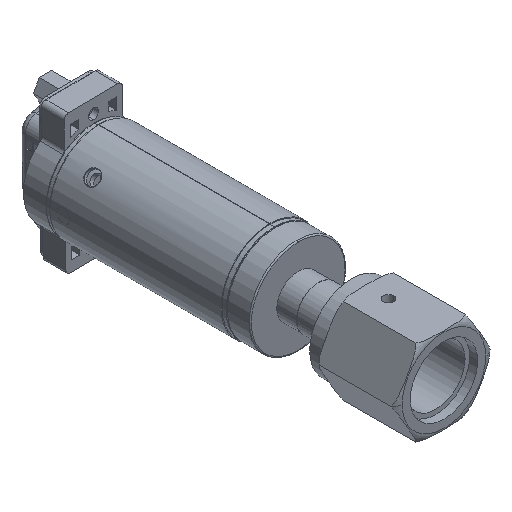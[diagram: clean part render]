
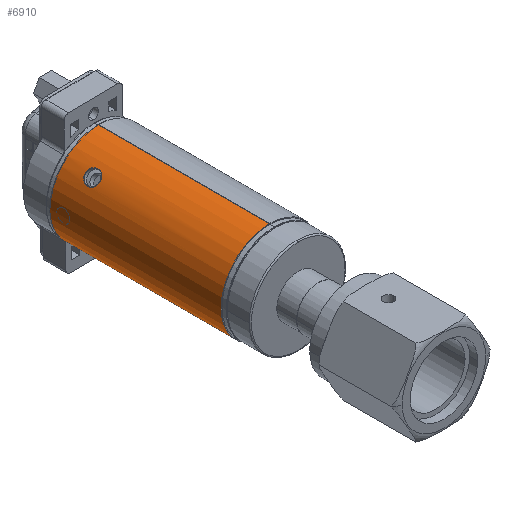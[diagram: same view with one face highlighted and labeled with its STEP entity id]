
A CAD part, isometric view. The second image highlights one B-rep face of the part: STEP entity #6910.
In plain terms, the highlighted cylindrical face has radius 10.846 mm (diameter 21.692 mm), a partial arc.
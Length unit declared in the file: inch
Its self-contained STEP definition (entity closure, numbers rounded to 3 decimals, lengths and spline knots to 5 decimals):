
#1627 = LINE ( 'NONE', #16899, #29798 ) ;
#2336 = CARTESIAN_POINT ( 'NONE',  ( 0.25449, 0.34288, 0.28908 ) ) ;
#2344 = ORIENTED_EDGE ( 'NONE', *, *, #24180, .T. ) ;
#2362 = CARTESIAN_POINT ( 'NONE',  ( 0.33519, 0.26459, 0.24653 ) ) ;
#2524 = CARTESIAN_POINT ( 'NONE',  ( 0.27896, 0.3233, 0.23078 ) ) ;
#2679 = CARTESIAN_POINT ( 'NONE',  ( 0.32972, 0.27133, 0.2379 ) ) ;
#3178 = DIRECTION ( 'NONE',  ( -1., 0., 0. ) ) ;
#3249 = DIRECTION ( 'NONE',  ( -1., 0., 0. ) ) ;
#4638 = CARTESIAN_POINT ( 'NONE',  ( 0.31584, 0.28738, 0.22569 ) ) ;
#4889 = VERTEX_POINT ( 'NONE', #10452 ) ;
#4925 = CARTESIAN_POINT ( 'NONE',  ( 0.26679, 0.33341, 0.32628 ) ) ;
#5103 = CARTESIAN_POINT ( 'NONE',  ( 0.32325, 0.27902, 0.23074 ) ) ;
#5240 = CARTESIAN_POINT ( 'NONE',  ( 0.25449, 0.34288, 0.285 ) ) ;
#5403 = CARTESIAN_POINT ( 'NONE',  ( 0.34094, 0.25708, 0.30517 ) ) ;
#5684 = DIRECTION ( 'NONE',  ( 0., 0., -1. ) ) ;
#5717 = DIRECTION ( 'NONE',  ( -1., 0., 0. ) ) ;
#5963 = VERTEX_POINT ( 'NONE', #13227 ) ;
#6224 = ORIENTED_EDGE ( 'NONE', *, *, #28248, .F. ) ;
#6910 = ADVANCED_FACE ( 'NONE', ( #20413, #30308 ), #8054, .T. ) ;
#7363 = CARTESIAN_POINT ( 'NONE',  ( 0.27361, 0.32787, 0.33502 ) ) ;
#7395 = CARTESIAN_POINT ( 'NONE',  ( 0.27129, 0.32976, 0.23795 ) ) ;
#7501 = AXIS2_PLACEMENT_3D ( 'NONE', #17973, #10023, #3178 ) ;
#7557 = CARTESIAN_POINT ( 'NONE',  ( 0.28167, 0.32094, 0.22886 ) ) ;
#7685 = CARTESIAN_POINT ( 'NONE',  ( 0.34288, 0.25449, 0.285 ) ) ;
#7713 = CARTESIAN_POINT ( 'NONE',  ( 0.34288, 0.25449, 0.27673 ) ) ;
#7789 = CARTESIAN_POINT ( 'NONE',  ( 0.427, 0., 0.0375 ) ) ;
#8054 = CYLINDRICAL_SURFACE ( 'NONE', #7501, 0.427 ) ;
#9655 = CARTESIAN_POINT ( 'NONE',  ( 0.33902, 0.2596, 0.31274 ) ) ;
#9766 = VERTEX_POINT ( 'NONE', #12727 ) ;
#9808 = CARTESIAN_POINT ( 'NONE',  ( 0.34263, 0.25482, 0.2932 ) ) ;
#9836 = CARTESIAN_POINT ( 'NONE',  ( 0.29015, 0.31337, 0.22414 ) ) ;
#10023 = DIRECTION ( 'NONE',  ( 0., 0., -1. ) ) ;
#10107 = LINE ( 'NONE', #20492, #26931 ) ;
#10257 = DIRECTION ( 'NONE',  ( 0., 0., -1. ) ) ;
#10289 = CARTESIAN_POINT ( 'NONE',  ( 0.2789, 0.32343, 0.33961 ) ) ;
#10452 = CARTESIAN_POINT ( 'NONE',  ( 0.427, 0., 1.5375 ) ) ;
#11314 = AXIS2_PLACEMENT_3D ( 'NONE', #20811, #5684, #3249 ) ;
#11343 = CIRCLE ( 'NONE', #14970, 0.427 ) ;
#12115 = CARTESIAN_POINT ( 'NONE',  ( 0.29606, 0.30781, 0.22251 ) ) ;
#12563 = CARTESIAN_POINT ( 'NONE',  ( 0.31337, 0.29015, 0.34585 ) ) ;
#12593 = CARTESIAN_POINT ( 'NONE',  ( 0.25449, 0.34288, 0.27684 ) ) ;
#12727 = CARTESIAN_POINT ( 'NONE',  ( -0.427, 0., 0.0375 ) ) ;
#12885 = CARTESIAN_POINT ( 'NONE',  ( 0.26116, 0.33783, 0.31637 ) ) ;
#13227 = CARTESIAN_POINT ( 'NONE',  ( -0.427, 0., 1.5375 ) ) ;
#13816 = VERTEX_POINT ( 'NONE', #7789 ) ;
#14558 = CARTESIAN_POINT ( 'NONE',  ( 0.33806, 0.26087, 0.25349 ) ) ;
#14641 = B_SPLINE_CURVE_WITH_KNOTS ( 'NONE', 3,
 ( #27378, #12593, #14717, #29334, #24955, #7395, #17635, #2524, #7557, #9836, #12115, #32087, #20068, #24638, #4638, #17479, #5103, #29962, #2679, #2362, #14558, #17317, #7713, #22195 ),
 .UNSPECIFIED., .F., .F.,
 ( 4, 2, 2, 2, 2, 2, 2, 2, 2, 2, 2, 4 ),
 ( 0.00497, 0.00559, 0.00621, 0.00652, 0.00683, 0.00745, 0.00776, 0.00808, 0.00839, 0.0087, 0.00932, 0.00994 ),
 .UNSPECIFIED. ) ;
#14717 = CARTESIAN_POINT ( 'NONE',  ( 0.25583, 0.34189, 0.26861 ) ) ;
#14794 = VERTEX_POINT ( 'NONE', #18230 ) ;
#14849 = CARTESIAN_POINT ( 'NONE',  ( 0.33785, 0.26114, 0.31632 ) ) ;
#14932 = EDGE_LOOP ( 'NONE', ( #23723, #2344, #6224, #30878 ) ) ;
#14970 = AXIS2_PLACEMENT_3D ( 'NONE', #27992, #18558, #5717 ) ;
#15170 = CARTESIAN_POINT ( 'NONE',  ( 0.32791, 0.27357, 0.33496 ) ) ;
#15864 = EDGE_CURVE ( 'NONE', #5963, #9766, #10107, .T. ) ;
#16899 = CARTESIAN_POINT ( 'NONE',  ( 0.427, 0., 0. ) ) ;
#17289 = CARTESIAN_POINT ( 'NONE',  ( 0.34167, 0.25611, 0.3012 ) ) ;
#17317 = CARTESIAN_POINT ( 'NONE',  ( 0.34188, 0.25585, 0.26852 ) ) ;
#17479 = CARTESIAN_POINT ( 'NONE',  ( 0.32089, 0.28173, 0.22882 ) ) ;
#17610 = CARTESIAN_POINT ( 'NONE',  ( 0.25959, 0.33903, 0.31271 ) ) ;
#17635 = CARTESIAN_POINT ( 'NONE',  ( 0.27377, 0.3277, 0.23531 ) ) ;
#17764 = CARTESIAN_POINT ( 'NONE',  ( 0.29906, 0.30481, 0.3475 ) ) ;
#17973 = CARTESIAN_POINT ( 'NONE',  ( 0., 0., 0. ) ) ;
#18230 = CARTESIAN_POINT ( 'NONE',  ( 0.34288, 0.25449, 0.285 ) ) ;
#18558 = DIRECTION ( 'NONE',  ( 0., 0., -1. ) ) ;
#19721 = CARTESIAN_POINT ( 'NONE',  ( 0.33503, 0.26474, 0.32311 ) ) ;
#19973 = ORIENTED_EDGE ( 'NONE', *, *, #21043, .T. ) ;
#20068 = CARTESIAN_POINT ( 'NONE',  ( 0.30766, 0.29613, 0.2229 ) ) ;
#20206 = CARTESIAN_POINT ( 'NONE',  ( 0.28738, 0.31584, 0.34431 ) ) ;
#20311 = ORIENTED_EDGE ( 'NONE', *, *, #28104, .T. ) ;
#20413 = FACE_BOUND ( 'NONE', #21141, .T. ) ;
#20492 = CARTESIAN_POINT ( 'NONE',  ( -0.427, 0., 0. ) ) ;
#20811 = CARTESIAN_POINT ( 'NONE',  ( 0., 0., 1.5375 ) ) ;
#21043 = EDGE_CURVE ( 'NONE', #23364, #14794, #14641, .T. ) ;
#21141 = EDGE_LOOP ( 'NONE', ( #20311, #19973 ) ) ;
#22195 = CARTESIAN_POINT ( 'NONE',  ( 0.34288, 0.25449, 0.285 ) ) ;
#22660 = CARTESIAN_POINT ( 'NONE',  ( 0.25482, 0.34263, 0.29323 ) ) ;
#23364 = VERTEX_POINT ( 'NONE', #24329 ) ;
#23571 = B_SPLINE_CURVE_WITH_KNOTS ( 'NONE', 3,
 ( #7685, #32056, #9808, #17289, #5403, #9655, #14849, #19721, #27192, #15170, #24763, #12563, #25241, #17764, #24926, #29938, #20206, #10289, #7363, #4925, #27670, #12885, #17610, #27514, #29619, #22660, #2336, #5240 ),
 .UNSPECIFIED., .F., .F.,
 ( 4, 2, 2, 2, 2, 2, 2, 2, 2, 2, 2, 2, 2, 4 ),
 ( 0., 0.00031, 0.00062, 0.00093, 0.00124, 0.00186, 0.00248, 0.0028, 0.00311, 0.00373, 0.00404, 0.00435, 0.00466, 0.00497 ),
 .UNSPECIFIED. ) ;
#23723 = ORIENTED_EDGE ( 'NONE', *, *, #27342, .T. ) ;
#23735 = DIRECTION ( 'NONE',  ( 0., 0., -1. ) ) ;
#24180 = EDGE_CURVE ( 'NONE', #4889, #13816, #1627, .T. ) ;
#24329 = CARTESIAN_POINT ( 'NONE',  ( 0.25449, 0.34288, 0.285 ) ) ;
#24638 = CARTESIAN_POINT ( 'NONE',  ( 0.31315, 0.29031, 0.22449 ) ) ;
#24763 = CARTESIAN_POINT ( 'NONE',  ( 0.32341, 0.27891, 0.33961 ) ) ;
#24926 = CARTESIAN_POINT ( 'NONE',  ( 0.29609, 0.3077, 0.34709 ) ) ;
#24955 = CARTESIAN_POINT ( 'NONE',  ( 0.26455, 0.33523, 0.2466 ) ) ;
#25241 = CARTESIAN_POINT ( 'NONE',  ( 0.30772, 0.29614, 0.3475 ) ) ;
#26364 = CIRCLE ( 'NONE', #11314, 0.427 ) ;
#26931 = VECTOR ( 'NONE', #10257, 39.37008 ) ;
#27192 = CARTESIAN_POINT ( 'NONE',  ( 0.33338, 0.26682, 0.32632 ) ) ;
#27342 = EDGE_CURVE ( 'NONE', #5963, #4889, #26364, .T. ) ;
#27378 = CARTESIAN_POINT ( 'NONE',  ( 0.25449, 0.34288, 0.285 ) ) ;
#27514 = CARTESIAN_POINT ( 'NONE',  ( 0.25707, 0.34095, 0.30515 ) ) ;
#27670 = CARTESIAN_POINT ( 'NONE',  ( 0.26475, 0.33502, 0.32313 ) ) ;
#27992 = CARTESIAN_POINT ( 'NONE',  ( 0., 0., 0.0375 ) ) ;
#28104 = EDGE_CURVE ( 'NONE', #14794, #23364, #23571, .T. ) ;
#28248 = EDGE_CURVE ( 'NONE', #9766, #13816, #11343, .T. ) ;
#29334 = CARTESIAN_POINT ( 'NONE',  ( 0.26083, 0.33809, 0.25356 ) ) ;
#29619 = CARTESIAN_POINT ( 'NONE',  ( 0.25612, 0.34166, 0.30125 ) ) ;
#29798 = VECTOR ( 'NONE', #23735, 39.37008 ) ;
#29938 = CARTESIAN_POINT ( 'NONE',  ( 0.29026, 0.3132, 0.34549 ) ) ;
#29962 = CARTESIAN_POINT ( 'NONE',  ( 0.32766, 0.27382, 0.23527 ) ) ;
#30308 = FACE_OUTER_BOUND ( 'NONE', #14932, .T. ) ;
#30878 = ORIENTED_EDGE ( 'NONE', *, *, #15864, .F. ) ;
#32056 = CARTESIAN_POINT ( 'NONE',  ( 0.34288, 0.25449, 0.28914 ) ) ;
#32087 = CARTESIAN_POINT ( 'NONE',  ( 0.30483, 0.29904, 0.2225 ) ) ;
